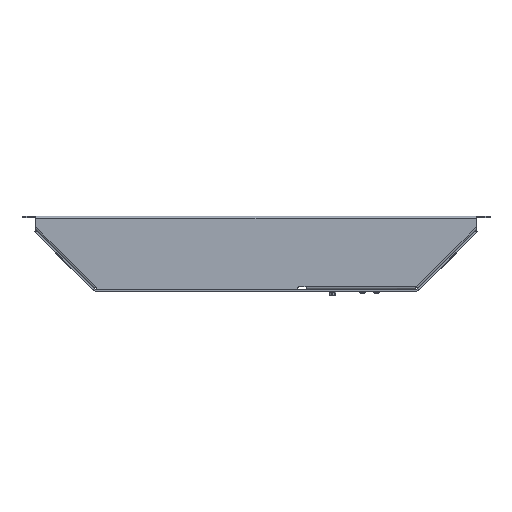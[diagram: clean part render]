
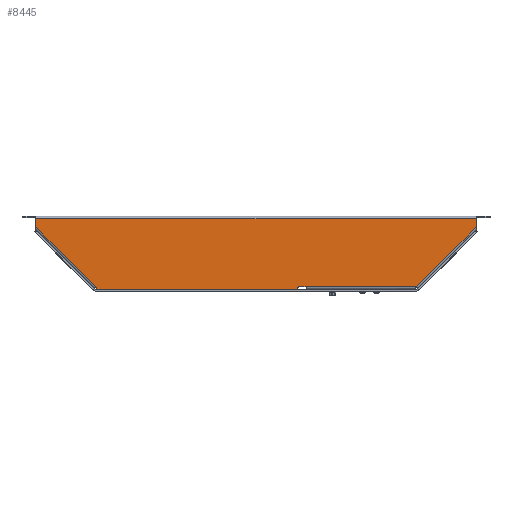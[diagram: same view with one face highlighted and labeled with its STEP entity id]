
A CAD part, left-side view. The second image highlights one B-rep face of the part: STEP entity #8445.
In plain terms, the highlighted planar face has unit normal (-1, 0, 0).
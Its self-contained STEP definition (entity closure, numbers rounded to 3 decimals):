
#8445 = ADVANCED_FACE ( 'NONE', ( #21385 ), #19169, .F. ) ;
#9416 = VERTEX_POINT ( 'NONE', #24879 ) ;
#9418 = VERTEX_POINT ( 'NONE', #24881 ) ;
#9420 = VERTEX_POINT ( 'NONE', #24883 ) ;
#9422 = VERTEX_POINT ( 'NONE', #24885 ) ;
#9424 = VERTEX_POINT ( 'NONE', #24887 ) ;
#9426 = VERTEX_POINT ( 'NONE', #24889 ) ;
#9428 = VERTEX_POINT ( 'NONE', #24891 ) ;
#9430 = VERTEX_POINT ( 'NONE', #24893 ) ;
#9432 = VERTEX_POINT ( 'NONE', #24895 ) ;
#9434 = VERTEX_POINT ( 'NONE', #24897 ) ;
#9444 = VERTEX_POINT ( 'NONE', #24907 ) ;
#9446 = VERTEX_POINT ( 'NONE', #24909 ) ;
#9448 = VERTEX_POINT ( 'NONE', #24911 ) ;
#9450 = VERTEX_POINT ( 'NONE', #24913 ) ;
#9460 = VERTEX_POINT ( 'NONE', #24923 ) ;
#9462 = VERTEX_POINT ( 'NONE', #24925 ) ;
#9580 = VERTEX_POINT ( 'NONE', #27419 ) ;
#9582 = VERTEX_POINT ( 'NONE', #27421 ) ;
#10830 = EDGE_CURVE ( 'NONE', #9416, #9418, #26086, .T. ) ;
#10833 = EDGE_CURVE ( 'NONE', #9418, #9420, #26092, .T. ) ;
#10836 = EDGE_CURVE ( 'NONE', #9420, #9422, #26098, .T. ) ;
#10839 = EDGE_CURVE ( 'NONE', #9424, #9422, #26102, .T. ) ;
#10842 = EDGE_CURVE ( 'NONE', #9424, #9426, #26108, .T. ) ;
#10845 = EDGE_CURVE ( 'NONE', #9428, #9426, #26112, .T. ) ;
#10848 = EDGE_CURVE ( 'NONE', #9428, #9430, #26118, .T. ) ;
#10851 = EDGE_CURVE ( 'NONE', #9432, #9430, #26122, .T. ) ;
#10854 = EDGE_CURVE ( 'NONE', #9432, #9434, #26126, .T. ) ;
#10872 = EDGE_CURVE ( 'NONE', #9444, #9446, #26152, .T. ) ;
#10875 = EDGE_CURVE ( 'NONE', #9446, #9448, #26158, .T. ) ;
#10878 = EDGE_CURVE ( 'NONE', #9448, #9450, #26164, .T. ) ;
#10896 = EDGE_CURVE ( 'NONE', #9460, #9462, #26194, .T. ) ;
#11076 = EDGE_CURVE ( 'NONE', #9580, #9582, #30881, .T. ) ;
#11111 = EDGE_CURVE ( 'NONE', #9462, #9580, #30951, .T. ) ;
#11112 = EDGE_CURVE ( 'NONE', #9582, #9416, #30953, .T. ) ;
#11113 = EDGE_CURVE ( 'NONE', #9434, #9444, #30955, .T. ) ;
#11114 = EDGE_CURVE ( 'NONE', #9450, #9460, #30957, .T. ) ;
#13267 = ORIENTED_EDGE ( 'NONE', *, *, #10896, .T. ) ;
#13268 = ORIENTED_EDGE ( 'NONE', *, *, #11111, .T. ) ;
#13269 = ORIENTED_EDGE ( 'NONE', *, *, #11076, .T. ) ;
#13270 = ORIENTED_EDGE ( 'NONE', *, *, #11112, .T. ) ;
#13271 = ORIENTED_EDGE ( 'NONE', *, *, #10830, .T. ) ;
#13272 = ORIENTED_EDGE ( 'NONE', *, *, #10833, .T. ) ;
#13273 = ORIENTED_EDGE ( 'NONE', *, *, #10836, .T. ) ;
#13274 = ORIENTED_EDGE ( 'NONE', *, *, #10839, .F. ) ;
#13275 = ORIENTED_EDGE ( 'NONE', *, *, #10842, .T. ) ;
#13276 = ORIENTED_EDGE ( 'NONE', *, *, #10845, .F. ) ;
#13277 = ORIENTED_EDGE ( 'NONE', *, *, #10848, .T. ) ;
#13278 = ORIENTED_EDGE ( 'NONE', *, *, #10851, .F. ) ;
#13279 = ORIENTED_EDGE ( 'NONE', *, *, #10854, .T. ) ;
#13280 = ORIENTED_EDGE ( 'NONE', *, *, #11113, .T. ) ;
#13281 = ORIENTED_EDGE ( 'NONE', *, *, #10872, .T. ) ;
#13282 = ORIENTED_EDGE ( 'NONE', *, *, #10875, .T. ) ;
#13283 = ORIENTED_EDGE ( 'NONE', *, *, #10878, .T. ) ;
#13284 = ORIENTED_EDGE ( 'NONE', *, *, #11114, .T. ) ;
#16540 = EDGE_LOOP ( 'NONE', ( #13267, #13268, #13269, #13270, #13271, #13272, #13273, #13274, #13275, #13276, #13277, #13278, #13279, #13280, #13281, #13282, #13283, #13284 ) ) ;
#17547 = AXIS2_PLACEMENT_3D ( 'NONE', #19170, #19171, #19172 ) ;
#19169 = PLANE ( 'NONE',  #17547 ) ;
#19170 = CARTESIAN_POINT ( 'NONE',  ( -101.245, 229.478, -30.622 ) ) ;
#19171 = DIRECTION ( 'NONE',  ( 1., 0., 0. ) ) ;
#19172 = DIRECTION ( 'NONE',  ( 0., 0., -1. ) ) ;
#21385 = FACE_OUTER_BOUND ( 'NONE', #16540, .T. ) ;
#24879 = CARTESIAN_POINT ( 'NONE',  ( -101.245, 163.211, -25.794 ) ) ;
#24881 = CARTESIAN_POINT ( 'NONE',  ( -101.245, 162.858, -25.441 ) ) ;
#24883 = CARTESIAN_POINT ( 'NONE',  ( -101.245, 162.478, -28.191 ) ) ;
#24885 = CARTESIAN_POINT ( 'NONE',  ( -101.245, 161.983, -28.622 ) ) ;
#24887 = CARTESIAN_POINT ( 'NONE',  ( -101.245, -55.511, -28.622 ) ) ;
#24889 = CARTESIAN_POINT ( 'NONE',  ( -101.245, -56.011, -28.122 ) ) ;
#24891 = CARTESIAN_POINT ( 'NONE',  ( -101.245, -56.011, -27.622 ) ) ;
#24893 = CARTESIAN_POINT ( 'NONE',  ( -101.245, -58.011, -25.622 ) ) ;
#24895 = CARTESIAN_POINT ( 'NONE',  ( -101.245, -64.011, -25.622 ) ) ;
#24897 = CARTESIAN_POINT ( 'NONE',  ( -101.245, -65.334, -26.122 ) ) ;
#24907 = CARTESIAN_POINT ( 'NONE',  ( -101.245, -184.011, -26.122 ) ) ;
#24909 = CARTESIAN_POINT ( 'NONE',  ( -101.245, -184.011, -25.622 ) ) ;
#24911 = CARTESIAN_POINT ( 'NONE',  ( -101.245, -184.451, -25.441 ) ) ;
#24913 = CARTESIAN_POINT ( 'NONE',  ( -101.245, -184.804, -25.794 ) ) ;
#24923 = CARTESIAN_POINT ( 'NONE',  ( -101.245, -249.67, 39.072 ) ) ;
#24925 = CARTESIAN_POINT ( 'NONE',  ( -101.245, -249.67, 48.023 ) ) ;
#26086 = LINE ( 'NONE', #29093, #26087 ) ;
#26087 = VECTOR ( 'NONE', #29094, 1000. ) ;
#26092 = LINE ( 'NONE', #29099, #26093 ) ;
#26093 = VECTOR ( 'NONE', #29100, 1000. ) ;
#26098 = CIRCLE ( 'NONE', #26526, 0.5 ) ;
#26102 = LINE ( 'NONE', #29113, #26103 ) ;
#26103 = VECTOR ( 'NONE', #29114, 1000. ) ;
#26108 = CIRCLE ( 'NONE', #26528, 0.5 ) ;
#26112 = LINE ( 'NONE', #29127, #26113 ) ;
#26113 = VECTOR ( 'NONE', #29128, 1000. ) ;
#26118 = CIRCLE ( 'NONE', #26530, 2. ) ;
#26122 = LINE ( 'NONE', #29141, #26123 ) ;
#26123 = VECTOR ( 'NONE', #29142, 1000. ) ;
#26126 = CIRCLE ( 'NONE', #26532, 2. ) ;
#26152 = LINE ( 'NONE', #29213, #26153 ) ;
#26153 = VECTOR ( 'NONE', #29214, 1000. ) ;
#26158 = LINE ( 'NONE', #29219, #26159 ) ;
#26159 = VECTOR ( 'NONE', #29220, 1000. ) ;
#26164 = LINE ( 'NONE', #29225, #26165 ) ;
#26165 = VECTOR ( 'NONE', #29226, 1000. ) ;
#26194 = LINE ( 'NONE', #29267, #26195 ) ;
#26195 = VECTOR ( 'NONE', #29268, 1000. ) ;
#26526 = AXIS2_PLACEMENT_3D ( 'NONE', #29106, #29107, #29108 ) ;
#26528 = AXIS2_PLACEMENT_3D ( 'NONE', #29120, #29121, #29122 ) ;
#26530 = AXIS2_PLACEMENT_3D ( 'NONE', #29134, #29135, #29136 ) ;
#26532 = AXIS2_PLACEMENT_3D ( 'NONE', #29150, #29151, #29152 ) ;
#27419 = CARTESIAN_POINT ( 'NONE',  ( -101.245, 228.078, 48.023 ) ) ;
#27421 = CARTESIAN_POINT ( 'NONE',  ( -101.245, 228.078, 39.072 ) ) ;
#29093 = CARTESIAN_POINT ( 'NONE',  ( -101.245, 164.979, -27.562 ) ) ;
#29094 = DIRECTION ( 'NONE',  ( 0., -0.707, 0.707 ) ) ;
#29099 = CARTESIAN_POINT ( 'NONE',  ( -101.245, 162.419, -28.622 ) ) ;
#29100 = DIRECTION ( 'NONE',  ( 0., -0.137, -0.991 ) ) ;
#29106 = CARTESIAN_POINT ( 'NONE',  ( -101.245, 161.983, -28.122 ) ) ;
#29107 = DIRECTION ( 'NONE',  ( -1., 0., 0. ) ) ;
#29108 = DIRECTION ( 'NONE',  ( 0., 0., -1. ) ) ;
#29113 = CARTESIAN_POINT ( 'NONE',  ( -101.245, -7.484, -28.622 ) ) ;
#29114 = DIRECTION ( 'NONE',  ( 0., 1., 0. ) ) ;
#29120 = CARTESIAN_POINT ( 'NONE',  ( -101.245, -55.511, -28.122 ) ) ;
#29121 = DIRECTION ( 'NONE',  ( -1., 0., 0. ) ) ;
#29122 = DIRECTION ( 'NONE',  ( 0., 0., -1. ) ) ;
#29127 = CARTESIAN_POINT ( 'NONE',  ( -101.245, -56.011, -25.622 ) ) ;
#29128 = DIRECTION ( 'NONE',  ( 0., 0., -1. ) ) ;
#29134 = CARTESIAN_POINT ( 'NONE',  ( -101.245, -58.011, -27.622 ) ) ;
#29135 = DIRECTION ( 'NONE',  ( 1., 0., 0. ) ) ;
#29136 = DIRECTION ( 'NONE',  ( 0., 0., -1. ) ) ;
#29141 = CARTESIAN_POINT ( 'NONE',  ( -101.245, -56.011, -25.622 ) ) ;
#29142 = DIRECTION ( 'NONE',  ( 0., 1., 0. ) ) ;
#29150 = CARTESIAN_POINT ( 'NONE',  ( -101.245, -64.011, -27.622 ) ) ;
#29151 = DIRECTION ( 'NONE',  ( 1., 0., 0. ) ) ;
#29152 = DIRECTION ( 'NONE',  ( 0., 0., -1. ) ) ;
#29213 = CARTESIAN_POINT ( 'NONE',  ( -101.245, -184.011, -28.622 ) ) ;
#29214 = DIRECTION ( 'NONE',  ( 0., 0., 1. ) ) ;
#29219 = CARTESIAN_POINT ( 'NONE',  ( -101.245, -184.011, -25.622 ) ) ;
#29220 = DIRECTION ( 'NONE',  ( 0., -0.924, 0.383 ) ) ;
#29225 = CARTESIAN_POINT ( 'NONE',  ( -101.245, -186.572, -27.562 ) ) ;
#29226 = DIRECTION ( 'NONE',  ( 0., -0.707, -0.707 ) ) ;
#29267 = CARTESIAN_POINT ( 'NONE',  ( -101.245, -249.67, 50.523 ) ) ;
#29268 = DIRECTION ( 'NONE',  ( 0., 0., 1. ) ) ;
#29701 = CARTESIAN_POINT ( 'NONE',  ( -101.245, 228.078, 35.537 ) ) ;
#29702 = DIRECTION ( 'NONE',  ( 0., 0., -1. ) ) ;
#29794 = CARTESIAN_POINT ( 'NONE',  ( -101.245, 229.478, 48.023 ) ) ;
#29795 = DIRECTION ( 'NONE',  ( 0., 1., 0. ) ) ;
#29796 = CARTESIAN_POINT ( 'NONE',  ( -101.245, 163.211, -25.794 ) ) ;
#29797 = DIRECTION ( 'NONE',  ( 0., -0.707, -0.707 ) ) ;
#29798 = CARTESIAN_POINT ( 'NONE',  ( -101.245, -184.011, -26.122 ) ) ;
#29799 = DIRECTION ( 'NONE',  ( 0., -1., 0. ) ) ;
#29800 = CARTESIAN_POINT ( 'NONE',  ( -101.245, -247.903, 37.305 ) ) ;
#29801 = DIRECTION ( 'NONE',  ( 0., -0.707, 0.707 ) ) ;
#30881 = LINE ( 'NONE', #29701, #30882 ) ;
#30882 = VECTOR ( 'NONE', #29702, 1000. ) ;
#30951 = LINE ( 'NONE', #29794, #30952 ) ;
#30952 = VECTOR ( 'NONE', #29795, 1000. ) ;
#30953 = LINE ( 'NONE', #29796, #30954 ) ;
#30954 = VECTOR ( 'NONE', #29797, 1000. ) ;
#30955 = LINE ( 'NONE', #29798, #30956 ) ;
#30956 = VECTOR ( 'NONE', #29799, 1000. ) ;
#30957 = LINE ( 'NONE', #29800, #30958 ) ;
#30958 = VECTOR ( 'NONE', #29801, 1000. ) ;
